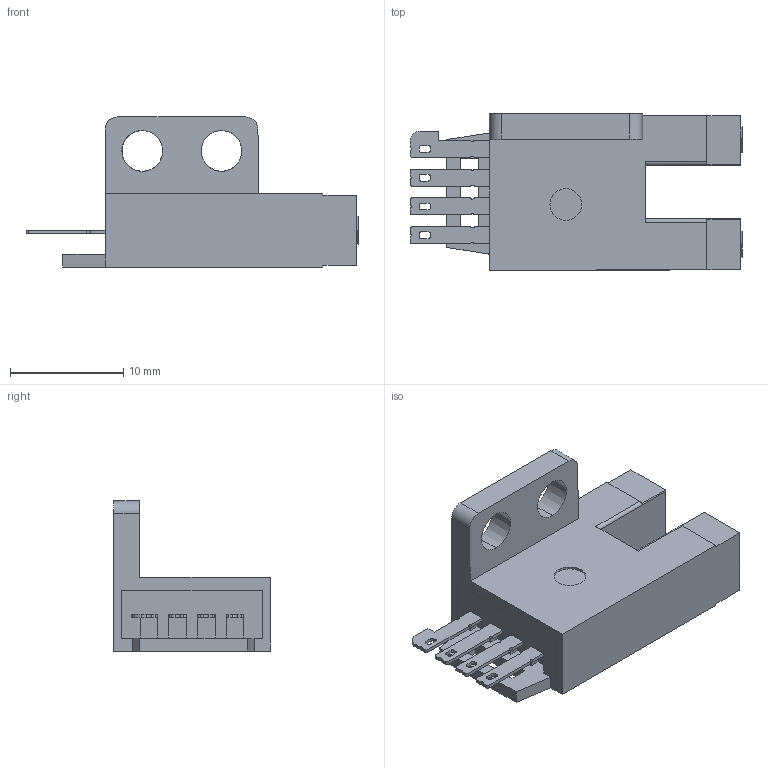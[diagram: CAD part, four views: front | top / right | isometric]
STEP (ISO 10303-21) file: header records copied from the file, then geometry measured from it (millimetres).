
FILE_DESCRIPTION((''),'2;1');
FILE_NAME('FF-U676QJ_ASM','2018-07-23T17:17:19',('Administrator'),(''),'CREO PARAMETRIC BY PTC INC, 2016390','CREO PARAMETRIC BY PTC INC, 2016390','');
FILE_SCHEMA(('CONFIG_CONTROL_DESIGN'));
Length unit declared in the file: millimetre
Products named in the file (5): FF-U676QJ; QIAJIAOGAI; 670000; WUJINQIAJIAO_ASM; FF-U676QJ_ASM
Assembly tree (4 placements, depth 3):
  FF-U676QJ_ASM
    FF-U676QJ
    WUJINQIAJIAO_ASM
      QIAJIAOGAI
      670000
Bounding box: 29.3 x 13.8 x 13.25 mm (x, y, z)
Volume: 1054.5 mm3; surface area: 2449.6 mm2
Topology: 6 solids, 6 shells, 221 faces, 626 edges, 417 vertices
Faces by surface type: plane 165, cylinder 52, cone 4
Entity records: 7361 total; most frequent: CARTESIAN_POINT 1385, ORIENTED_EDGE 1252, DIRECTION 1170, EDGE_CURVE 626, VECTOR 510, LINE 510, VERTEX_POINT 417, AXIS2_PLACEMENT_3D 330
